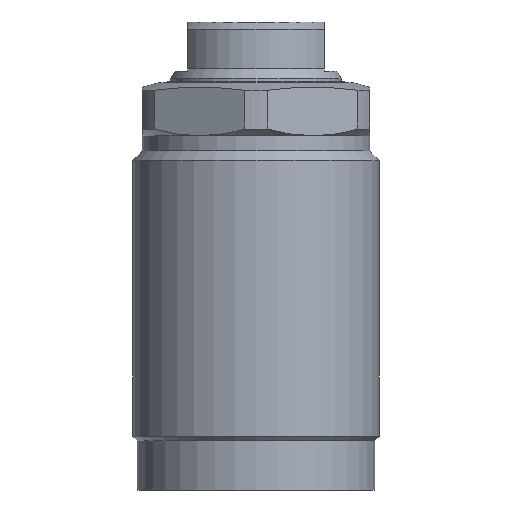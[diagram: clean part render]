
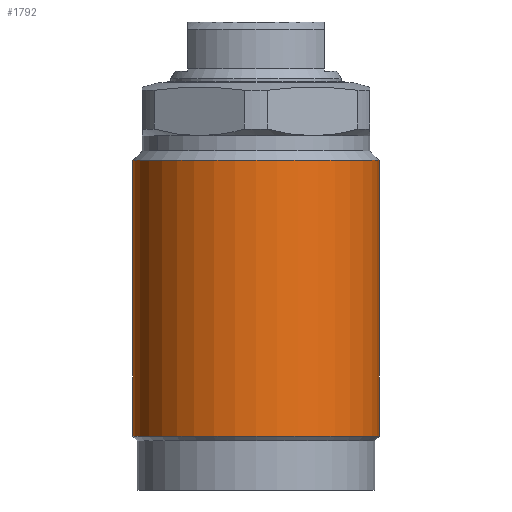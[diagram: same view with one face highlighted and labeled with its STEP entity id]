
A CAD part, front view. The second image highlights one B-rep face of the part: STEP entity #1792.
In plain terms, the highlighted cylindrical face has radius 32.5 mm (diameter 65 mm), a partial arc.
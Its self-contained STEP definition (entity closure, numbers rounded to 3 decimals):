
#1729=CARTESIAN_POINT('',(-32.5,0.0,-93.3));
#1730=VERTEX_POINT('',#1729);
#1738=CARTESIAN_POINT('',(32.5,0.0,-93.3));
#1739=VERTEX_POINT('',#1738);
#1746=CARTESIAN_POINT('',(-0.0,0.0,-93.3));
#1747=DIRECTION('',(0.0,0.0,1.0));
#1748=DIRECTION('',(1.0,0.0,-0.0));
#1749=AXIS2_PLACEMENT_3D('',#1746,#1747,#1748);
#1750=CIRCLE('',#1749,32.5);
#1751=EDGE_CURVE('no 2511',#1730,#1739,#1750,.T.);
#1761=CARTESIAN_POINT('',(-32.5,0.0,-20.5));
#1762=VERTEX_POINT('',#1761);
#1763=CARTESIAN_POINT('',(-32.5,0.0,-93.3));
#1764=DIRECTION('',(0.0,-0.0,1.0));
#1765=VECTOR('',#1764,1.0);
#1766=LINE('',#1763,#1765);
#1767=EDGE_CURVE('no 2521',#1730,#1762,#1766,.T.);
#1768=ORIENTED_EDGE('',*,*,#1767,.F.);
#1769=ORIENTED_EDGE('',*,*,#1751,.T.);
#1770=CARTESIAN_POINT('',(32.5,0.0,-20.5));
#1771=VERTEX_POINT('',#1770);
#1772=CARTESIAN_POINT('',(32.5,0.0,-93.3));
#1773=DIRECTION('',(0.0,0.0,1.0));
#1774=VECTOR('',#1773,1.0);
#1775=LINE('',#1772,#1774);
#1776=EDGE_CURVE('no 2529',#1739,#1771,#1775,.T.);
#1777=ORIENTED_EDGE('',*,*,#1776,.T.);
#1778=CARTESIAN_POINT('',(-0.0,0.0,-20.5));
#1779=DIRECTION('',(0.0,0.0,1.0));
#1780=DIRECTION('',(1.0,0.0,-0.0));
#1781=AXIS2_PLACEMENT_3D('',#1778,#1779,#1780);
#1782=CIRCLE('',#1781,32.5);
#1783=EDGE_CURVE('no 2533',#1762,#1771,#1782,.T.);
#1784=ORIENTED_EDGE('',*,*,#1783,.F.);
#1785=EDGE_LOOP('',(#1768,#1769,#1777,#1784));
#1786=FACE_OUTER_BOUND('',#1785,.T.);
#1787=CARTESIAN_POINT('',(0.0,0.0,10.166));
#1788=DIRECTION('',(0.0,0.0,1.0));
#1789=DIRECTION('',(0.0,1.0,-0.0));
#1790=AXIS2_PLACEMENT_3D('',#1787,#1788,#1789);
#1791=CYLINDRICAL_SURFACE('',#1790,32.5);
#1792=ADVANCED_FACE('no 2514',(#1786),#1791,.T.);
